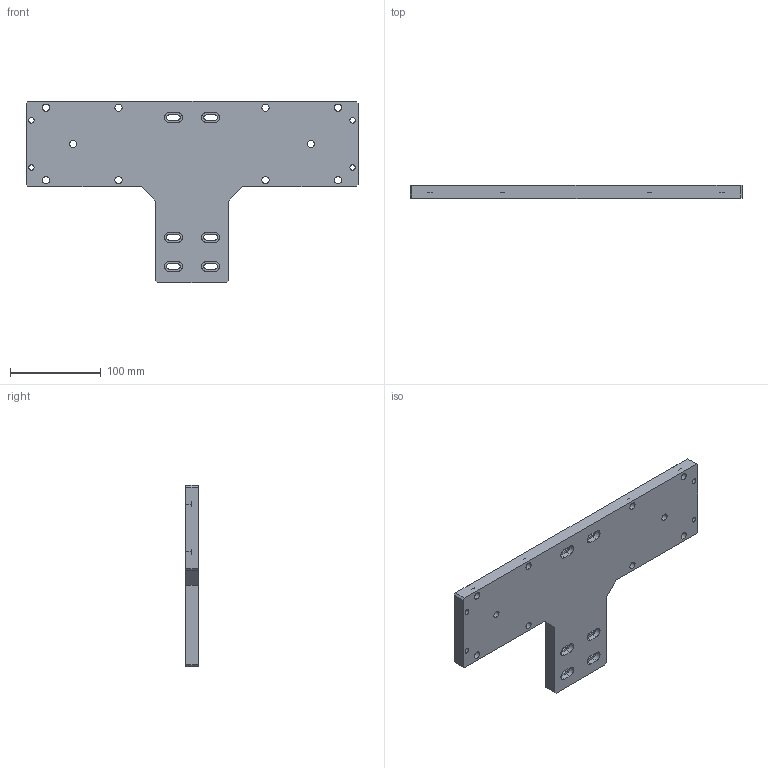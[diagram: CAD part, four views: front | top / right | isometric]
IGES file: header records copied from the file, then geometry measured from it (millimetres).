
Start section:  PTC IGES file: k80-k100m-st.igs
Global section: file name: k80-k100m-st.igs; native system: Pro/ENGINEER by Parametric Technology Corporation; preprocessor: 2008230; author: Owner; organization: Unknown; date: 20121211.155338; units: millimetre
Bounding box: 366 x 14 x 200 mm (x, y, z)
Surface area: 109644.3 mm2 (no closed solid volume)
Topology: 0 solids, 0 shells, 142 faces, 752 edges, 745 vertices
Faces by surface type: revolution 80, bspline 62
